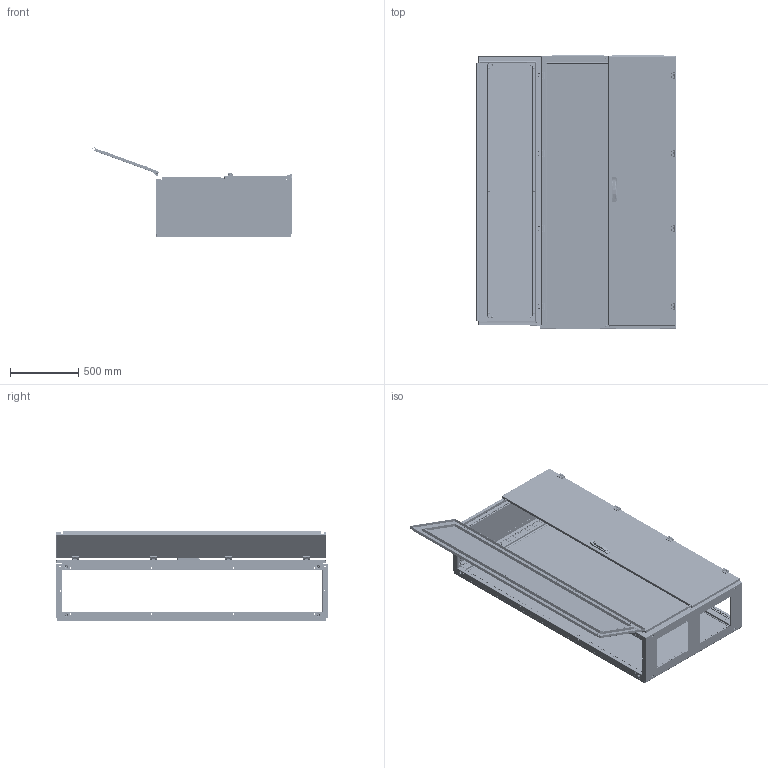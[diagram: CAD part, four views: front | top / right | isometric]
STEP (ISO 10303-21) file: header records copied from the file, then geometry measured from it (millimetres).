
FILE_DESCRIPTION (( 'STEP AP214' ), '1' );
FILE_NAME ('QA201004.step', '2011-08-11T08:14:28', ( 'Radek Veselý' ), ( 'Siemens and Partners' ), 'SwSTEP 2.0', 'SolidWorks 2006303', '' );
FILE_SCHEMA (( 'AUTOMOTIVE_DESIGN' ));
Length unit declared in the file: millimetre
Products named in the file (1): QA201004
Bounding box: 1468.78 x 2004.5 x 662.7 mm (x, y, z)
Volume: 13787175.7 mm3; surface area: 15911286.3 mm2
Topology: 158 solids, 158 shells, 8822 faces, 24352 edges, 15841 vertices
Faces by surface type: plane 4396, cylinder 3664, cone 442, bspline 274, torus 46
Entity records: 370831 total; most frequent: CARTESIAN_POINT 67059, DIRECTION 48408, ORIENTED_EDGE 48112, EDGE_CURVE 24056, AXIS2_PLACEMENT_3D 16453, VERTEX_POINT 15841, VECTOR 15502, LINE 15502
